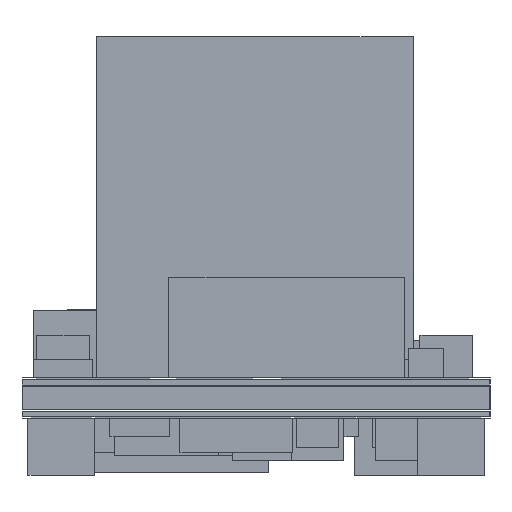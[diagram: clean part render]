
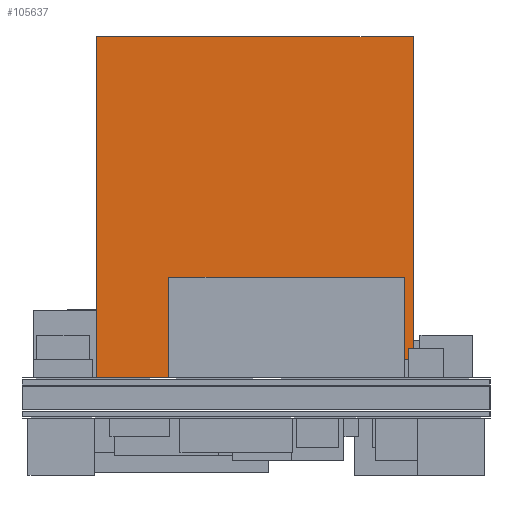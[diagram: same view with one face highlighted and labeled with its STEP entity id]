
A CAD part, left-side view. The second image highlights one B-rep face of the part: STEP entity #105637.
In plain terms, the highlighted face is a extrusion surface.
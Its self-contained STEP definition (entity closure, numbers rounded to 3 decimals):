
#105637 = ADVANCED_FACE('',(#105638),#105672,.T.);
#105638 = FACE_BOUND('',#105639,.T.);
#105639 = EDGE_LOOP('',(#105640,#105650,#105658,#105666));
#105640 = ORIENTED_EDGE('',*,*,#105641,.T.);
#105641 = EDGE_CURVE('',#105642,#105644,#105646,.T.);
#105642 = VERTEX_POINT('',#105643);
#105643 = CARTESIAN_POINT('',(2.489,1.118,10.15));
#105644 = VERTEX_POINT('',#105645);
#105645 = CARTESIAN_POINT('',(2.489,10.541,10.15));
#105646 = LINE('',#105647,#105648);
#105647 = CARTESIAN_POINT('',(2.489,1.118,10.15));
#105648 = VECTOR('',#105649,1.);
#105649 = DIRECTION('',(0.,1.,0.));
#105650 = ORIENTED_EDGE('',*,*,#105651,.T.);
#105651 = EDGE_CURVE('',#105644,#105652,#105654,.T.);
#105652 = VERTEX_POINT('',#105653);
#105653 = CARTESIAN_POINT('',(2.489,10.541,0.));
#105654 = LINE('',#105655,#105656);
#105655 = CARTESIAN_POINT('',(2.489,10.541,10.15));
#105656 = VECTOR('',#105657,1.);
#105657 = DIRECTION('',(0.,0.,-1.));
#105658 = ORIENTED_EDGE('',*,*,#105659,.T.);
#105659 = EDGE_CURVE('',#105652,#105660,#105662,.T.);
#105660 = VERTEX_POINT('',#105661);
#105661 = CARTESIAN_POINT('',(2.489,1.118,0.));
#105662 = LINE('',#105663,#105664);
#105663 = CARTESIAN_POINT('',(2.489,10.541,0.));
#105664 = VECTOR('',#105665,1.);
#105665 = DIRECTION('',(0.,-1.,0.));
#105666 = ORIENTED_EDGE('',*,*,#105667,.T.);
#105667 = EDGE_CURVE('',#105660,#105642,#105668,.T.);
#105668 = LINE('',#105669,#105670);
#105669 = CARTESIAN_POINT('',(2.489,1.118,0.));
#105670 = VECTOR('',#105671,1.);
#105671 = DIRECTION('',(0.,0.,1.));
#105672 = SURFACE_OF_LINEAR_EXTRUSION('',#105673,#105677);
#105673 = LINE('',#105674,#105675);
#105674 = CARTESIAN_POINT('',(2.489,1.118,0.));
#105675 = VECTOR('',#105676,1.);
#105676 = DIRECTION('',(0.,0.,1.));
#105677 = VECTOR('',#105678,1.);
#105678 = DIRECTION('',(0.,1.,0.));
